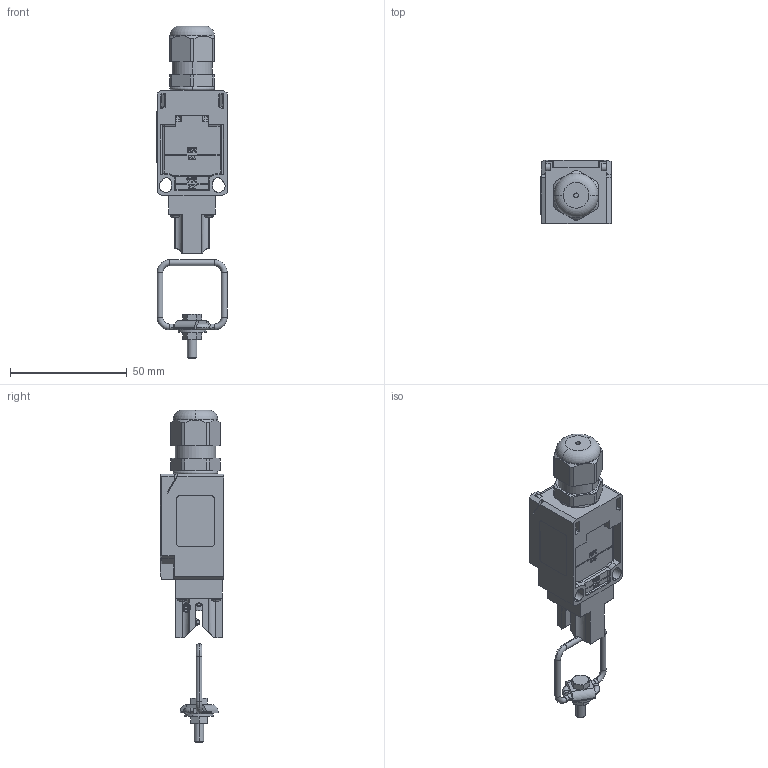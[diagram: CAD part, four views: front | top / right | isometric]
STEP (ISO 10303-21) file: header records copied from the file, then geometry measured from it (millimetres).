
FILE_DESCRIPTION((''),'2;1');
FILE_NAME('6116469043','2025-05-13T09:32:48',('markus.finger'),(''),'CREO PARAMETRIC BY PTC INC, 2022124','CREO PARAMETRIC BY PTC INC, 2022124','');
FILE_SCHEMA(('AUTOMOTIVE_DESIGN { 1 0 10303 214 1 1 1 1 }'));
Length unit declared in the file: millimetre
Products named in the file (1): 6116469043
Bounding box: 30.1 x 27 x 142 mm (x, y, z)
Volume: 44910.2 mm3; surface area: 17316.1 mm2
Topology: 4 solids, 4 shells, 1108 faces, 2808 edges, 1729 vertices
Faces by surface type: plane 694, cylinder 207, cone 84, torus 66, bspline 37, sphere 20
Entity records: 53880 total; most frequent: CARTESIAN_POINT 9614, ORIENTED_EDGE 5580, DIRECTION 5403, PRESENTATION_STYLE_ASSIGNMENT 3906, STYLED_ITEM 2798, CURVE_STYLE 2794, EDGE_CURVE 2790, VECTOR 1826
